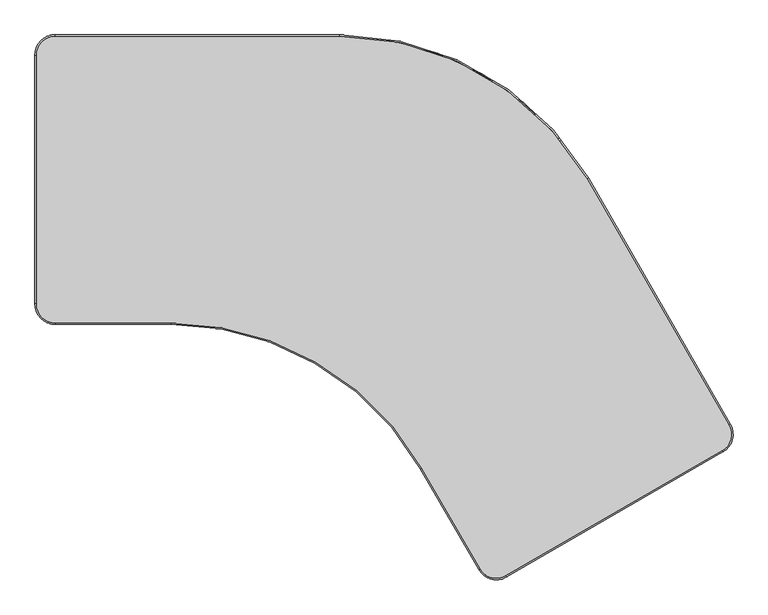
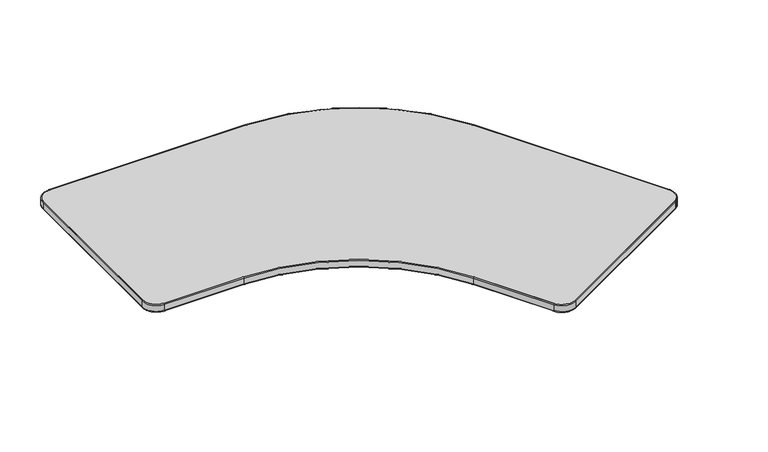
"""IFC4 building model written with IfcOpenShell, lengths in millimetres: furniture geometry, Steelcase - Answer Solution - Universal Table - Corner 120deg - 3mm Edge : 30D x 48W."""

from ifc_helpers import new_model, si_unit, point, frame, frame_2d, origin, place, context, project, spatial, polyline, circle_curve, ellipse_curve, trimmed, segment, composite_curve, outline, extrude, source, transform, mapped, element, save
from ifc_brep_helpers import plane_surface, cylinder_surface, revolved_surface, advanced_brep


def furniture_2d95de3c(model_context):
    return source(origin(), model_context, "Body", "SolidModel", [
        advanced_brep(
        [(53.848, -764.8828986, 641.1117977), (0.0, -711.0348986, 641.1117977), (3.048, -711.0348986, 638.1749651), (53.848, -761.8348986, 638.1749651), (53.848, -764.8828986, 665.302106), (0.0, -711.0348986, 665.302106), (53.848, -761.8348986, 668.274), (3.048, -711.0348986, 668.274), (358.5813958, -761.8348986, 638.1749651), (358.5813958, -764.8828986, 641.1117977), (358.5813958, -764.8828986, 665.302106), (358.5813958, -761.8348986, 668.274), (1018.9569227, -1146.1508868, 641.1117977), (1021.5965682, -1144.6268868, 638.1749651), (1018.9569227, -1146.1508868, 665.302106), (1021.5965682, -1144.6268868, 668.274), (1175.4890581, -1411.1764984, 638.1749651), (1172.8494127, -1412.7004984, 641.1117977), (1172.8494127, -1412.7004984, 665.302106), (1175.4890581, -1411.1764984, 668.274), (1246.4071487, -1432.4102343, 641.1117977), (1244.8831487, -1429.7705889, 638.1749651), (1246.4071487, -1432.4102343, 665.302106), (1244.8831487, -1429.7705889, 668.274), (1816.8063253, -1099.5705889, 638.1749651), (1818.3303253, -1102.2102343, 641.1117977), (1818.3303253, -1102.2102343, 665.302106), (1816.8063253, -1099.5705889, 668.274), (1838.0400613, -1028.6524984, 641.1117977), (1835.4004158, -1030.1764984, 638.1749651), (1838.0400613, -1028.6524984, 665.302106), (1835.4004158, -1030.1764984, 668.274), (1460.5028684, -380.8348986, 638.1749651), (1463.1425138, -379.3108986, 641.1117977), (1463.1425138, -379.3108986, 665.302106), (1460.5028684, -380.8348986, 668.274), (806.090772, 0.0381014, 641.1117977), (806.090772, -3.0098986, 638.1749651), (806.090772, 0.0381014, 665.302106), (806.090772, -3.0098986, 668.274), (53.848, -3.0098986, 638.1749651), (53.848, 0.0381014, 641.1117977), (53.848, 0.0381014, 665.302106), (53.848, -3.0098986, 668.274), (0.0, -53.8098986, 641.1117977), (3.048, -53.8098986, 638.1749651), (0.0, -53.8098986, 665.302106), (3.048, -53.8098986, 668.274)],
        [
            (0, 1, circle_curve(frame((53.848, -711.0348986, 641.1117977), z_axis=(0.0, 0.0, -1.0), x_axis=(-1.0, 0.0, 0.0)), 53.848)),
            (1, 2, circle_curve(frame((2.9388598, -711.0348986, 641.1117977), z_axis=(0.0, -1.0, 0.0), x_axis=(1.0, 0.0, 0.0)), 2.9388598)),
            (2, 3, circle_curve(frame((53.848, -711.0348986, 638.1749651), z_axis=(0.0, 0.0, 1.0), x_axis=(-1.0, 0.0, 0.0)), 50.8)),
            (3, 0, circle_curve(frame((53.848, -761.9440387, 641.1117977), z_axis=(-1.0, 0.0, 0.0), x_axis=(0.0, 1.0, 0.0)), 2.9388598)),
            (4, 5, circle_curve(frame((53.848, -711.0348986, 665.302106), z_axis=(0.0, 0.0, -1.0), x_axis=(-1.0, 0.0, 0.0)), 53.848)),
            (5, 1),
            (0, 4),
            (6, 7, circle_curve(frame((53.848, -711.0348986, 668.274), z_axis=(0.0, 0.0, -1.0), x_axis=(-1.0, 0.0, 0.0)), 50.8)),
            (7, 5, circle_curve(frame((2.9728441, -711.0348986, 665.302106), z_axis=(0.0, -1.0, 0.0), x_axis=(1.0, 0.0, 0.0)), 2.9728441)),
            (4, 6, circle_curve(frame((53.848, -761.9100545, 665.302106), z_axis=(-1.0, 0.0, 0.0), x_axis=(0.0, 1.0, 0.0)), 2.9728441)),
            (2, 7),
            (6, 3),
            (3, 8),
            (8, 9, circle_curve(frame((358.5813958, -761.9440387, 641.1117977), z_axis=(-1.0, 0.0, 0.0), x_axis=(0.0, 1.0, 0.0)), 2.9388598)),
            (9, 0),
            (9, 10),
            (10, 4),
            (10, 11, circle_curve(frame((358.5813958, -761.9100545, 665.302106), z_axis=(-1.0, 0.0, 0.0), x_axis=(0.0, 1.0, 0.0)), 2.9728441)),
            (11, 6),
            (11, 8),
            (12, 9, circle_curve(frame((358.5813958, -1527.418875, 641.1117977), z_axis=(0.0, 0.0, 1.0), x_axis=(0.0, 1.0, 0.0)), 762.5359765)),
            (8, 13, circle_curve(frame((358.5813958, -1527.418875, 638.1749651), z_axis=(0.0, 0.0, -1.0), x_axis=(0.0, 1.0, 0.0)), 765.5839765)),
            (13, 12, circle_curve(frame((1021.50205, -1144.6814569, 641.1117977), z_axis=(-0.49999999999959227, 0.8660254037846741, 0.0), x_axis=(0.8660254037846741, 0.49999999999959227, 0.0)), 2.9388598)),
            (14, 10, circle_curve(frame((358.5813958, -1527.418875, 665.302106), z_axis=(0.0, 0.0, 1.0), x_axis=(0.0, 1.0, 0.0)), 762.5359765)),
            (12, 14),
            (15, 11, circle_curve(frame((358.5813958, -1527.418875, 668.274), z_axis=(0.0, 0.0, 1.0), x_axis=(0.0, 1.0, 0.0)), 765.5839765)),
            (14, 15, circle_curve(frame((1021.5314813, -1144.6644648, 665.302106), z_axis=(-0.49999999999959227, 0.8660254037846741, 0.0), x_axis=(0.8660254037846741, 0.49999999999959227, 0.0)), 2.9728441)),
            (15, 13),
            (13, 16),
            (16, 17, circle_curve(frame((1175.39454, -1411.2310685, 641.1117977), z_axis=(-0.4999999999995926, 0.866025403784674, 0.0), x_axis=(0.866025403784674, 0.4999999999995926, 0.0)), 2.9388598)),
            (17, 12),
            (17, 18),
            (18, 14),
            (18, 19, circle_curve(frame((1175.4239712, -1411.2140763, 665.302106), z_axis=(-0.4999999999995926, 0.866025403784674, 0.0), x_axis=(0.866025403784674, 0.4999999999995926, 0.0)), 2.9728441)),
            (19, 15),
            (19, 16),
            (20, 17, circle_curve(frame((1219.4831487, -1385.7764984, 641.1117977), z_axis=(0.0, 0.0, -1.0), x_axis=(-0.8660254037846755, -0.49999999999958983, 0.0)), 53.848)),
            (16, 21, circle_curve(frame((1219.4831487, -1385.7764984, 638.1749651), z_axis=(0.0, 0.0, 1.0), x_axis=(-0.8660254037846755, -0.49999999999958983, 0.0)), 50.8)),
            (21, 20, circle_curve(frame((1244.9377187, -1429.865107, 641.1117977), z_axis=(-0.8660254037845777, -0.49999999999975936, 0.0), x_axis=(-0.49999999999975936, 0.8660254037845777, 0.0)), 2.9388598)),
            (22, 18, circle_curve(frame((1219.4831487, -1385.7764984, 665.302106), z_axis=(0.0, 0.0, -1.0), x_axis=(-0.8660254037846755, -0.49999999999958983, 0.0)), 53.848)),
            (20, 22),
            (23, 19, circle_curve(frame((1219.4831487, -1385.7764984, 668.274), z_axis=(0.0, 0.0, -1.0), x_axis=(-0.8660254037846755, -0.49999999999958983, 0.0)), 50.8)),
            (22, 23, circle_curve(frame((1244.9207266, -1429.8356758, 665.302106), z_axis=(-0.8660254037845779, -0.49999999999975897, 0.0), x_axis=(-0.49999999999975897, 0.8660254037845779, 0.0)), 2.9728441)),
            (23, 21),
            (21, 24),
            (24, 25, circle_curve(frame((1816.8608954, -1099.665107, 641.1117977), z_axis=(-0.8660254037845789, -0.499999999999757, 0.0), x_axis=(-0.499999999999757, 0.8660254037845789, 0.0)), 2.9388598)),
            (25, 20),
            (25, 26),
            (26, 22),
            (26, 27, circle_curve(frame((1816.8439033, -1099.6356758, 665.302106), z_axis=(-0.8660254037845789, -0.499999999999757, 0.0), x_axis=(-0.499999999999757, 0.8660254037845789, 0.0)), 2.9728441)),
            (27, 23),
            (27, 24),
            (28, 25, circle_curve(frame((1791.4063253, -1055.5764984, 641.1117977), z_axis=(0.0, 0.0, -1.0), x_axis=(0.4999999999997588, -0.8660254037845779, 0.0)), 53.848)),
            (24, 29, circle_curve(frame((1791.4063253, -1055.5764984, 638.1749651), z_axis=(0.0, 0.0, 1.0), x_axis=(0.4999999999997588, -0.8660254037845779, 0.0)), 50.8)),
            (29, 28, circle_curve(frame((1835.494934, -1030.1219283, 641.1117977), z_axis=(0.500000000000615, -0.8660254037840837, 0.0), x_axis=(-0.8660254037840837, -0.500000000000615, 0.0)), 2.9388598)),
            (30, 26, circle_curve(frame((1791.4063253, -1055.5764984, 665.302106), z_axis=(0.0, 0.0, -1.0), x_axis=(0.4999999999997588, -0.8660254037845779, 0.0)), 53.848)),
            (28, 30),
            (31, 27, circle_curve(frame((1791.4063253, -1055.5764984, 668.274), z_axis=(0.0, 0.0, -1.0), x_axis=(0.4999999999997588, -0.8660254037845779, 0.0)), 50.8)),
            (30, 31, circle_curve(frame((1835.4655027, -1030.1389204, 665.302106), z_axis=(0.5000000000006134, -0.8660254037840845, 0.0), x_axis=(-0.8660254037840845, -0.5000000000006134, 0.0)), 2.9728441)),
            (31, 29),
            (29, 32),
            (32, 33, circle_curve(frame((1460.5973865, -380.7803285, 641.1117977), z_axis=(0.5000000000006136, -0.8660254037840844, 0.0), x_axis=(-0.8660254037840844, -0.5000000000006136, 0.0)), 2.9388598)),
            (33, 28),
            (33, 34),
            (34, 30),
            (34, 35, circle_curve(frame((1460.5679553, -380.7973206, 665.302106), z_axis=(0.5000000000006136, -0.8660254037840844, 0.0), x_axis=(-0.8660254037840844, -0.5000000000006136, 0.0)), 2.9728441)),
            (35, 31),
            (35, 32),
            (36, 33, circle_curve(frame((806.090772, -758.6598986, 641.1117977), z_axis=(0.0, 0.0, -1.0), x_axis=(0.8660254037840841, 0.5000000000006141, 0.0)), 758.698)),
            (32, 37, circle_curve(frame((806.090772, -758.6598986, 638.1749651), z_axis=(0.0, 0.0, 1.0), x_axis=(0.8660254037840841, 0.5000000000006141, 0.0)), 755.65)),
            (37, 36, circle_curve(frame((806.090772, -2.9007584, 641.1117977), z_axis=(1.0, 0.0, 0.0), x_axis=(0.0, -1.0, 0.0)), 2.9388598)),
            (38, 34, circle_curve(frame((806.090772, -758.6598986, 665.302106), z_axis=(0.0, 0.0, -1.0), x_axis=(0.8660254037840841, 0.5000000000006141, 0.0)), 758.698)),
            (36, 38),
            (39, 35, circle_curve(frame((806.090772, -758.6598986, 668.274), z_axis=(0.0, 0.0, -1.0), x_axis=(0.8660254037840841, 0.5000000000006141, 0.0)), 755.65)),
            (38, 39, circle_curve(frame((806.090772, -2.9347427, 665.302106), z_axis=(1.0, 0.0, 0.0), x_axis=(0.0, -1.0, 0.0)), 2.9728441)),
            (39, 37),
            (37, 40),
            (40, 41, circle_curve(frame((53.848, -2.9007584, 641.1117977), z_axis=(1.0, 0.0, 0.0), x_axis=(0.0, -1.0, 0.0)), 2.9388598)),
            (41, 36),
            (41, 42),
            (42, 38),
            (42, 43, circle_curve(frame((53.848, -2.9347427, 665.302106), z_axis=(1.0, 0.0, 0.0), x_axis=(0.0, -1.0, 0.0)), 2.9728441)),
            (43, 39),
            (43, 40),
            (44, 41, circle_curve(frame((53.848, -53.8098986, 641.1117977), z_axis=(0.0, 0.0, -1.0), x_axis=(0.0, 1.0, 0.0)), 53.848)),
            (40, 45, circle_curve(frame((53.848, -53.8098986, 638.1749651), z_axis=(0.0, 0.0, 1.0), x_axis=(0.0, 1.0, 0.0)), 50.8)),
            (45, 44, circle_curve(frame((2.9388598, -53.8098986, 641.1117977), z_axis=(0.0, 1.0, 0.0), x_axis=(1.0, 0.0, 0.0)), 2.9388598)),
            (46, 42, circle_curve(frame((53.848, -53.8098986, 665.302106), z_axis=(0.0, 0.0, -1.0), x_axis=(0.0, 1.0, 0.0)), 53.848)),
            (44, 46),
            (47, 43, circle_curve(frame((53.848, -53.8098986, 668.274), z_axis=(0.0, 0.0, -1.0), x_axis=(0.0, 1.0, 0.0)), 50.8)),
            (46, 47, circle_curve(frame((2.9728441, -53.8098986, 665.302106), z_axis=(0.0, 1.0, 0.0), x_axis=(1.0, 0.0, 0.0)), 2.9728441)),
            (47, 45),
            (45, 2),
            (1, 44),
            (5, 46),
            (7, 47),
        ],
        [
            revolved_surface(trimmed(ellipse_curve(frame((2.9388598, -711.0348986, 641.1117977), z_axis=(0.0, 1.0, 0.0), x_axis=(1.0, 0.0, 0.0)), 2.9388598, 2.9388598), [point((3.048, -711.0348986, 638.1749651))], [point((0.0, -711.0348986, 641.1117977))], True, "CARTESIAN"), (53.848, -711.0348986, 638.1749651), (0.0, 0.0, 1.0)),
            cylinder_surface(frame((53.848, -711.0348986, 638.1749651), z_axis=(0.0, 0.0, 1.0), x_axis=(-1.0, 0.0, 0.0)), 53.848),
            revolved_surface(trimmed(ellipse_curve(frame((2.9728441, -711.0348986, 665.302106), z_axis=(0.0, 1.0, 0.0), x_axis=(1.0, 0.0, 0.0)), 2.9728441, 2.9728441), [point((0.0, -711.0348986, 665.302106))], [point((3.048, -711.0348986, 668.274))], True, "CARTESIAN"), (53.848, -711.0348986, 638.1749651), (0.0, 0.0, 1.0)),
            revolved_surface(polyline([(3.048000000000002, -711.0348986, 668.274), (3.048000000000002, -711.0348986, 638.1749651)]), (53.848, -711.0348986, 638.1749651), (0.0, 0.0, 1.0)),
            cylinder_surface(frame((53.848, -761.9440387, 641.1117977), z_axis=(-1.0, 0.0, 0.0), x_axis=(0.0, 1.0, 0.0)), 2.9388598),
            plane_surface(frame((53.848, -764.8828986, 641.1117977), z_axis=(0.0, -1.0, 0.0), x_axis=(1.0, 0.0, 0.0))),
            cylinder_surface(frame((53.848, -761.9100545, 665.302106), z_axis=(-1.0, 0.0, 0.0), x_axis=(0.0, 1.0, 0.0)), 2.9728441),
            plane_surface(frame((53.848, -761.8348986, 668.274), z_axis=(0.0, 1.0, 0.0), x_axis=(1.0, 0.0, 0.0))),
            revolved_surface(trimmed(ellipse_curve(frame((358.5813958, -761.9440387, 641.1117977), z_axis=(-1.0, 0.0, 0.0), x_axis=(0.0, 1.0, 0.0)), 2.9388598, 2.9388598), [point((358.5813958, -761.8348986, 638.1749651))], [point((358.5813958, -764.8828986, 641.1117977))], True, "CARTESIAN"), (358.5813958, -1527.418875, 638.1749651), (0.0, 0.0, -1.0)),
            revolved_surface(polyline([(358.5813958, -764.8828985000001, 641.1117977), (358.5813958, -764.8828985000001, 665.302106)]), (358.5813958, -1527.418875, 638.1749651), (0.0, 0.0, -1.0)),
            revolved_surface(trimmed(ellipse_curve(frame((358.5813958, -761.9100545, 665.302106), z_axis=(-1.0, 0.0, 0.0), x_axis=(0.0, 1.0, 0.0)), 2.9728441, 2.9728441), [point((358.5813958, -764.8828986, 665.302106))], [point((358.5813958, -761.8348986, 668.274))], True, "CARTESIAN"), (358.5813958, -1527.418875, 638.1749651), (0.0, 0.0, -1.0)),
            cylinder_surface(frame((358.5813958, -1527.418875, 638.1749651), z_axis=(0.0, 0.0, -1.0), x_axis=(0.0, 1.0, 0.0)), 765.5839765),
            cylinder_surface(frame((1021.50205, -1144.6814569, 641.1117977), z_axis=(-0.4999999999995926, 0.866025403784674, 0.0), x_axis=(0.866025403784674, 0.4999999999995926, 0.0)), 2.9388598),
            plane_surface(frame((1018.9569227, -1146.1508868, 641.1117977), z_axis=(-0.866025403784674, -0.49999999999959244, 0.0), x_axis=(0.49999999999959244, -0.866025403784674, 0.0))),
            cylinder_surface(frame((1021.5314813, -1144.6644648, 665.302106), z_axis=(-0.4999999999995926, 0.866025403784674, 0.0), x_axis=(0.866025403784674, 0.4999999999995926, 0.0)), 2.9728441),
            plane_surface(frame((1021.5965682, -1144.6268868, 668.274), z_axis=(0.8660254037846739, 0.49999999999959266, 0.0), x_axis=(0.49999999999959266, -0.8660254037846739, 0.0))),
            revolved_surface(trimmed(ellipse_curve(frame((1175.39454, -1411.2310685, 641.1117977), z_axis=(-0.4999999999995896, 0.8660254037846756, 0.0), x_axis=(0.8660254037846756, 0.4999999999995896, 0.0)), 2.9388598, 2.9388598), [point((1175.4890581, -1411.1764984, 638.1749651))], [point((1172.8494127, -1412.7004984, 641.1117977))], True, "CARTESIAN"), (1219.4831487, -1385.7764984, 638.1749651), (0.0, 0.0, 1.0)),
            cylinder_surface(frame((1219.4831487, -1385.7764984, 638.1749651), z_axis=(0.0, 0.0, 1.0), x_axis=(-0.8660254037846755, -0.49999999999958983, 0.0)), 53.848),
            revolved_surface(trimmed(ellipse_curve(frame((1175.4239712, -1411.2140763, 665.302106), z_axis=(-0.4999999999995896, 0.8660254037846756, 0.0), x_axis=(0.8660254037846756, 0.4999999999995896, 0.0)), 2.9728441, 2.9728441), [point((1172.8494127, -1412.7004984, 665.302106))], [point((1175.4890581, -1411.1764984, 668.274))], True, "CARTESIAN"), (1219.4831487, -1385.7764984, 638.1749651), (0.0, 0.0, 1.0)),
            revolved_surface(polyline([(1175.4890581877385, -1411.1764983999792, 668.274), (1175.4890581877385, -1411.1764983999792, 638.1749651)]), (1219.4831487, -1385.7764984, 638.1749651), (0.0, 0.0, 1.0)),
            cylinder_surface(frame((1244.9377187, -1429.865107, 641.1117977), z_axis=(-0.8660254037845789, -0.499999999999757, 0.0), x_axis=(-0.499999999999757, 0.8660254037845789, 0.0)), 2.9388598),
            plane_surface(frame((1246.4071487, -1432.4102343, 641.1117977), z_axis=(0.4999999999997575, -0.8660254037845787, 0.0), x_axis=(0.8660254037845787, 0.4999999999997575, 0.0))),
            cylinder_surface(frame((1244.9207266, -1429.8356758, 665.302106), z_axis=(-0.8660254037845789, -0.499999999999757, 0.0), x_axis=(-0.499999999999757, 0.8660254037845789, 0.0)), 2.9728441),
            plane_surface(frame((1244.8831487, -1429.7705889, 668.274), z_axis=(-0.49999999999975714, 0.8660254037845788, 0.0), x_axis=(0.8660254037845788, 0.49999999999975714, 0.0))),
            revolved_surface(trimmed(ellipse_curve(frame((1816.8608954, -1099.665107, 641.1117977), z_axis=(-0.866025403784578, -0.49999999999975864, 0.0), x_axis=(-0.49999999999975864, 0.866025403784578, 0.0)), 2.9388598, 2.9388598), [point((1816.8063253, -1099.5705889, 638.1749651))], [point((1818.3303253, -1102.2102343, 641.1117977))], True, "CARTESIAN"), (1791.4063253, -1055.5764984, 638.1749651), (0.0, 0.0, 1.0)),
            cylinder_surface(frame((1791.4063253, -1055.5764984, 638.1749651), z_axis=(0.0, 0.0, 1.0), x_axis=(0.4999999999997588, -0.8660254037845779, 0.0)), 53.848),
            revolved_surface(trimmed(ellipse_curve(frame((1816.8439033, -1099.6356758, 665.302106), z_axis=(-0.866025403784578, -0.49999999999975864, 0.0), x_axis=(-0.49999999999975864, 0.866025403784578, 0.0)), 2.9728441, 2.9728441), [point((1818.3303253, -1102.2102343, 665.302106))], [point((1816.8063253, -1099.5705889, 668.274))], True, "CARTESIAN"), (1791.4063253, -1055.5764984, 638.1749651), (0.0, 0.0, 1.0)),
            revolved_surface(polyline([(1816.8063252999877, -1099.5705889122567, 668.274), (1816.8063252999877, -1099.5705889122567, 638.1749651)]), (1791.4063253, -1055.5764984, 638.1749651), (0.0, 0.0, 1.0)),
            cylinder_surface(frame((1835.494934, -1030.1219283, 641.1117977), z_axis=(0.5000000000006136, -0.8660254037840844, 0.0), x_axis=(-0.8660254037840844, -0.5000000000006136, 0.0)), 2.9388598),
            plane_surface(frame((1838.0400613, -1028.6524984, 641.1117977), z_axis=(0.8660254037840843, 0.500000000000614, 0.0), x_axis=(-0.500000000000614, 0.8660254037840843, 0.0))),
            cylinder_surface(frame((1835.4655027, -1030.1389204, 665.302106), z_axis=(0.5000000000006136, -0.8660254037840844, 0.0), x_axis=(-0.8660254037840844, -0.5000000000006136, 0.0)), 2.9728441),
            plane_surface(frame((1835.4004158, -1030.1764984, 668.274), z_axis=(-0.8660254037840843, -0.500000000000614, 0.0), x_axis=(-0.500000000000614, 0.8660254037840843, 0.0))),
            revolved_surface(trimmed(ellipse_curve(frame((1460.5973865, -380.7803285, 641.1117977), z_axis=(0.5000000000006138, -0.8660254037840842, 0.0), x_axis=(-0.8660254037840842, -0.5000000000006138, 0.0)), 2.9388598, 2.9388598), [point((1460.5028684, -380.8348986, 638.1749651))], [point((1463.1425138, -379.3108986, 641.1117977))], True, "CARTESIAN"), (806.090772, -758.6598986, 638.1749651), (0.0, 0.0, 1.0)),
            cylinder_surface(frame((806.090772, -758.6598986, 638.1749651), z_axis=(0.0, 0.0, 1.0), x_axis=(0.8660254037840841, 0.5000000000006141, 0.0)), 758.698),
            revolved_surface(trimmed(ellipse_curve(frame((1460.5679553, -380.7973206, 665.302106), z_axis=(0.5000000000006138, -0.8660254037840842, 0.0), x_axis=(-0.8660254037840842, -0.5000000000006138, 0.0)), 2.9728441, 2.9728441), [point((1463.1425138, -379.3108986, 665.302106))], [point((1460.5028684, -380.8348986, 668.274))], True, "CARTESIAN"), (806.090772, -758.6598986, 638.1749651), (0.0, 0.0, 1.0)),
            revolved_surface(polyline([(1460.5028683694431, -380.834898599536, 668.274), (1460.5028683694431, -380.834898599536, 638.1749651)]), (806.090772, -758.6598986, 638.1749651), (0.0, 0.0, 1.0)),
            cylinder_surface(frame((806.090772, -2.9007584, 641.1117977), z_axis=(1.0, 0.0, 0.0), x_axis=(0.0, -1.0, 0.0)), 2.9388598),
            plane_surface(frame((806.090772, 0.0381014, 641.1117977), z_axis=(0.0, 1.0, 0.0), x_axis=(-1.0, 0.0, 0.0))),
            cylinder_surface(frame((806.090772, -2.9347427, 665.302106), z_axis=(1.0, 0.0, 0.0), x_axis=(0.0, -1.0, 0.0)), 2.9728441),
            plane_surface(frame((806.090772, -3.0098986, 668.274), z_axis=(0.0, -1.0, 0.0), x_axis=(-1.0, 0.0, 0.0))),
            revolved_surface(trimmed(ellipse_curve(frame((53.848, -2.9007584, 641.1117977), z_axis=(1.0, 0.0, 0.0), x_axis=(0.0, -1.0, 0.0)), 2.9388598, 2.9388598), [point((53.848, -3.0098986, 638.1749651))], [point((53.848, 0.0381014, 641.1117977))], True, "CARTESIAN"), (53.848, -53.8098986, 638.1749651), (0.0, 0.0, 1.0)),
            cylinder_surface(frame((53.848, -53.8098986, 638.1749651), z_axis=(0.0, 0.0, 1.0), x_axis=(0.0, 1.0, 0.0)), 53.848),
            revolved_surface(trimmed(ellipse_curve(frame((53.848, -2.9347427, 665.302106), z_axis=(1.0, 0.0, 0.0), x_axis=(0.0, -1.0, 0.0)), 2.9728441, 2.9728441), [point((53.848, 0.0381014, 665.302106))], [point((53.848, -3.0098986, 668.274))], True, "CARTESIAN"), (53.848, -53.8098986, 638.1749651), (0.0, 0.0, 1.0)),
            revolved_surface(polyline([(53.848, -3.0098985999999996, 668.274), (53.848, -3.0098985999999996, 638.1749651)]), (53.848, -53.8098986, 638.1749651), (0.0, 0.0, 1.0)),
            cylinder_surface(frame((2.9388598, -53.8098986, 641.1117977), z_axis=(0.0, 1.0, 0.0), x_axis=(1.0, 0.0, 0.0)), 2.9388598),
            plane_surface(frame((0.0, -53.8098986, 641.1117977), z_axis=(-1.0, 0.0, 0.0), x_axis=(0.0, -1.0, 0.0))),
            cylinder_surface(frame((2.9728441, -53.8098986, 665.302106), z_axis=(0.0, 1.0, 0.0), x_axis=(1.0, 0.0, 0.0)), 2.9728441),
            plane_surface(frame((3.048, -53.8098986, 668.274), z_axis=(1.0, 0.0, 0.0), x_axis=(0.0, -1.0, 0.0))),
        ],
        [
            (0, [[1, 2, 3, 4]]),
            (1, [[5, 6, -1, 7]]),
            (2, [[8, 9, -5, 10]]),
            (3, [[-3, 11, -8, 12]]),
            (4, [[-4, 13, 14, 15]]),
            (5, [[-7, -15, 16, 17]]),
            (6, [[-10, -17, 18, 19]]),
            (7, [[-12, -19, 20, -13]]),
            (8, [[21, -14, 22, 23]]),
            (9, [[24, -16, -21, 25]]),
            (10, [[26, -18, -24, 27]]),
            (11, [[-22, -20, -26, 28]]),
            (12, [[-23, 29, 30, 31]]),
            (13, [[-25, -31, 32, 33]]),
            (14, [[-27, -33, 34, 35]]),
            (15, [[-28, -35, 36, -29]]),
            (16, [[37, -30, 38, 39]]),
            (17, [[40, -32, -37, 41]]),
            (18, [[42, -34, -40, 43]]),
            (19, [[-38, -36, -42, 44]]),
            (20, [[-39, 45, 46, 47]]),
            (21, [[-41, -47, 48, 49]]),
            (22, [[-43, -49, 50, 51]]),
            (23, [[-44, -51, 52, -45]]),
            (24, [[53, -46, 54, 55]]),
            (25, [[56, -48, -53, 57]]),
            (26, [[58, -50, -56, 59]]),
            (27, [[-54, -52, -58, 60]]),
            (28, [[-55, 61, 62, 63]]),
            (29, [[-57, -63, 64, 65]]),
            (30, [[-59, -65, 66, 67]]),
            (31, [[-60, -67, 68, -61]]),
            (32, [[69, -62, 70, 71]]),
            (33, [[72, -64, -69, 73]]),
            (34, [[74, -66, -72, 75]]),
            (35, [[-70, -68, -74, 76]]),
            (36, [[-71, 77, 78, 79]]),
            (37, [[-73, -79, 80, 81]]),
            (38, [[-75, -81, 82, 83]]),
            (39, [[-76, -83, 84, -77]]),
            (40, [[85, -78, 86, 87]]),
            (41, [[88, -80, -85, 89]]),
            (42, [[90, -82, -88, 91]]),
            (43, [[-86, -84, -90, 92]]),
            (44, [[-87, 93, -2, 94]]),
            (45, [[-89, -94, -6, 95]]),
            (46, [[-91, -95, -9, 96]]),
            (47, [[-92, -96, -11, -93]]),
        ],
    ),
        extrude(outline(composite_curve([segment(polyline([(53.848, -3.0098986), (806.090772, -3.0098986)]), True, "CONTINUOUS"), segment(trimmed(circle_curve(frame_2d((806.090772, -758.6598986)), 755.65), [point((806.090772, -3.0098986))], [point((1460.5028684, -380.8348986))], False, "CARTESIAN"), True, "CONTINUOUS"), segment(polyline([(1460.5028684, -380.8348986), (1835.4004158, -1030.1764984)]), True, "CONTINUOUS"), segment(trimmed(circle_curve(frame_2d((1791.4063253, -1055.5764984)), 50.8), [point((1835.4004158, -1030.1764984))], [point((1816.8063253, -1099.5705889))], False, "CARTESIAN"), True, "CONTINUOUS"), segment(polyline([(1816.8063253, -1099.5705889), (1244.8831487, -1429.7705889)]), True, "CONTINUOUS"), segment(trimmed(circle_curve(frame_2d((1219.4831487, -1385.7764984)), 50.8), [point((1244.8831487, -1429.7705889))], [point((1175.4890581, -1411.1764984))], False, "CARTESIAN"), True, "CONTINUOUS"), segment(polyline([(1175.4890581, -1411.1764984), (1021.5965682, -1144.6268868)]), True, "CONTINUOUS"), segment(trimmed(circle_curve(frame_2d((358.5813958, -1527.418875)), 765.5839765), [point((1021.5965682, -1144.6268868))], [point((358.5813958, -761.8348986))], True, "CARTESIAN"), True, "CONTINUOUS"), segment(polyline([(358.5813958, -761.8348986), (53.848, -761.8348986)]), True, "CONTINUOUS"), segment(trimmed(circle_curve(frame_2d((53.848, -711.0348986)), 50.8), [point((53.848, -761.8348986))], [point((3.048, -711.0348986))], False, "CARTESIAN"), True, "CONTINUOUS"), segment(polyline([(3.048, -711.0348986), (3.048, -53.8098986)]), True, "CONTINUOUS"), segment(trimmed(circle_curve(frame_2d((53.848, -53.8098986)), 50.8), [point((3.048, -53.8098986))], [point((53.848, -3.0098986))], False, "CARTESIAN"), True, "CONTINUOUS")], self_intersect=False)), frame((0.0, 0.0, 638.1749651), z_axis=(0.0, 0.0, 1.0), x_axis=(1.0, 0.0, 0.0)), (0.0, 0.0, 1.0), 30.0990349),
    ])


if __name__ == "__main__":
    model = new_model("IFC4")
    model_context = context("Model", 3, world=origin())
    ifc_project = project(units=[si_unit("LENGTHUNIT", "METRE", prefix="MILLI")], contexts=[model_context])
    site = spatial("IfcSite", under=ifc_project)
    building = spatial("IfcBuilding", under=site)
    placement = place(None, origin())
    furniture_shape = furniture_2d95de3c(model_context)
    element("IfcFurniture", 1, ObjectType="Steelcase - Answer Solution - Universal Table - Corner 120deg - 3mm Edge : 30D x 48W", at=placement, inside=building, context=model_context, shape_type="MappedRepresentation", body=[
        mapped(furniture_shape, transform((0.0, 0.0, 0.0), x_axis=(1.0, 0.0, 0.0), y_axis=(0.0, 1.0, 0.0), z_axis=(0.0, 0.0, 1.0))),
    ])
    save(model, "model.ifc")
